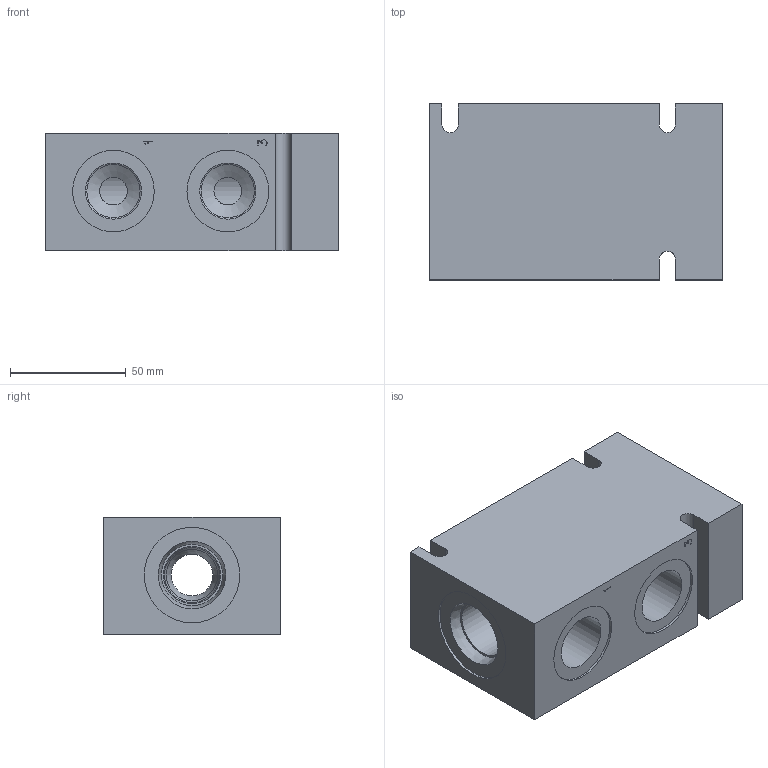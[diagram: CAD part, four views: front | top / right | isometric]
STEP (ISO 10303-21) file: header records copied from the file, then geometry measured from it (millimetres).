
FILE_DESCRIPTION( ( 'Unknown' ), '1' );
FILE_NAME( 'G:/Graphic Design/Graphic Design 2/Data Sheets/Delta Bodies/DRAWINGS/B-DHVD4.stp', 'Unknown', ( 'Unknown' ), ( 'Unknown' ), 'PSStep 16.0.42', 'Unknown', ' ' );
FILE_SCHEMA( ( 'AUTOMOTIVE_DESIGN { 1 0 10303 214 1 1 1 1 }' ) );
Length unit declared in the file: millimetre
Products named in the file (2): Assem1; B-DHVD4
Assembly tree (1 placements, depth 2):
  Assem1
    B-DHVD4
Bounding box: 127 x 76.2 x 50.8 mm (x, y, z)
Surface area: 56185 mm2 (no closed solid volume)
Topology: 0 solids, 152 shells, 152 faces, 750 edges, 710 vertices
Faces by surface type: plane 109, cylinder 32, cone 11
Full cylindrical faces by diameter (mm): 0.2 x4, 12 x2, 18 x1, 22.27 x1, 23 x3, 23.825 x1, 24.3 x8, 24.696 x2, 35.33 x4, 41.275 x1
Entity records: 8360 total; most frequent: CARTESIAN_POINT 2352, DIRECTION 778, ORIENTED_EDGE 684, EDGE_CURVE 684, VERTEX_POINT 684, B_SPLINE_CURVE_WITH_KNOTS 328, AXIS2_PLACEMENT_3D 268, LINE 242
